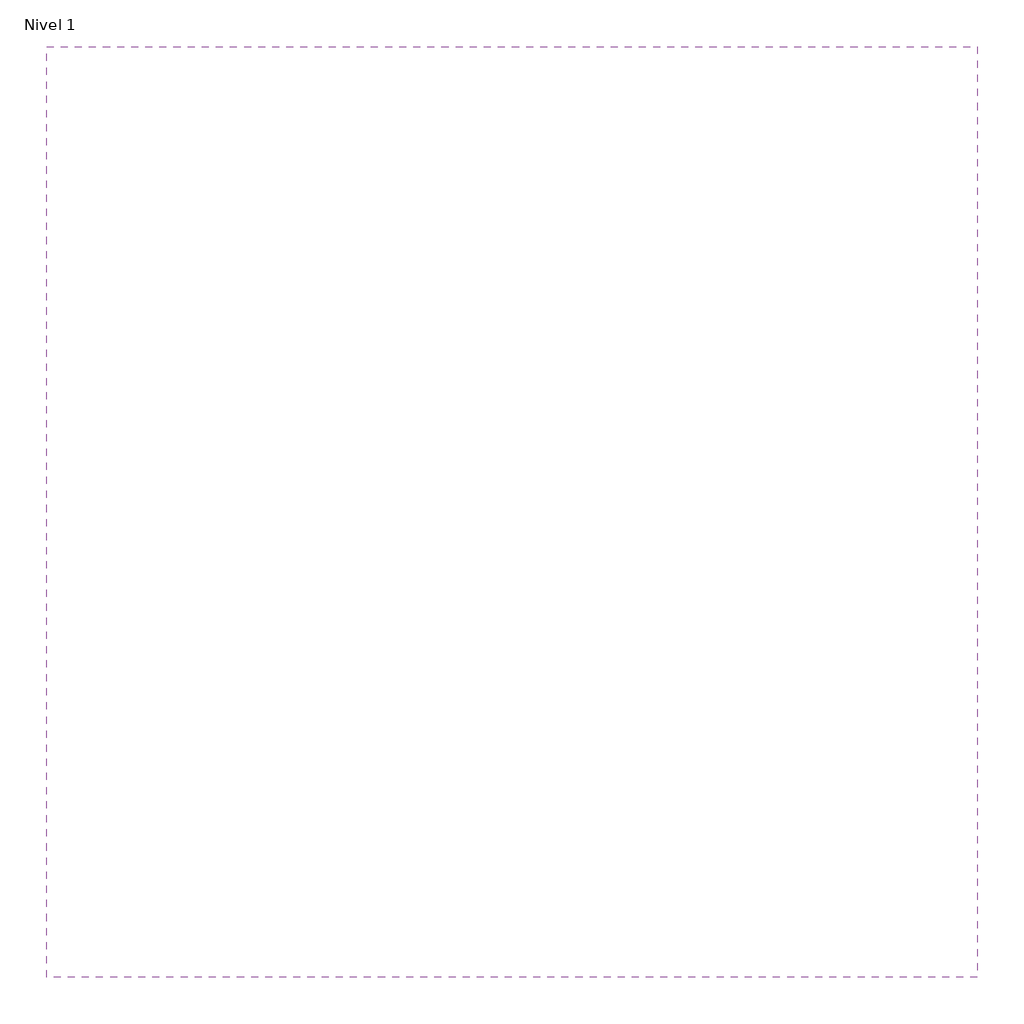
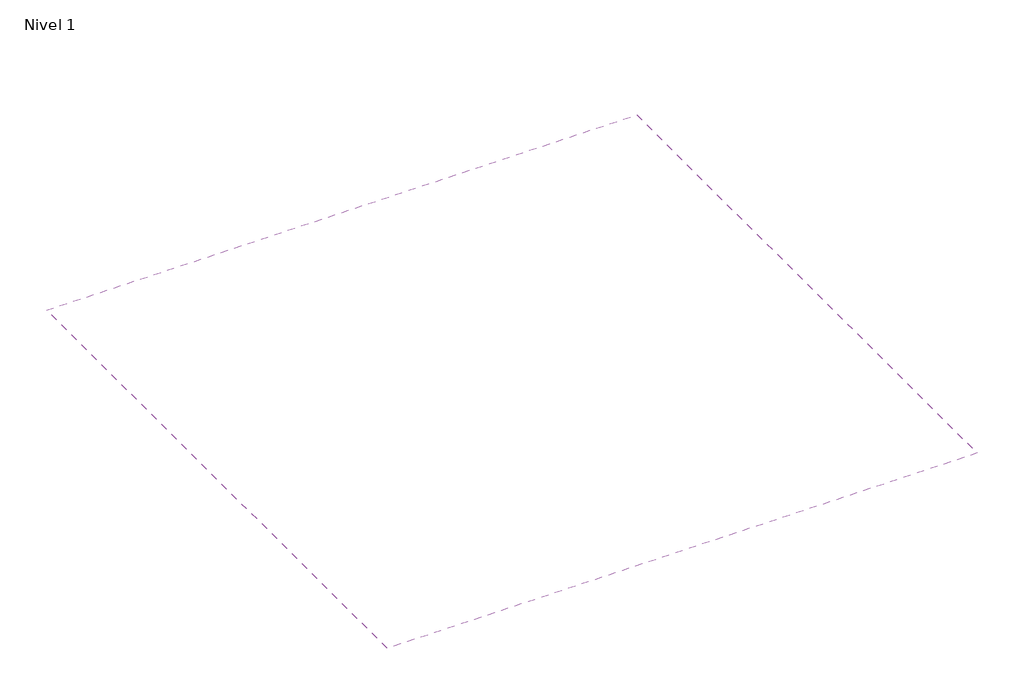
# One storey: 1 covering.
"""IFC4 building model written with IfcOpenShell, lengths in millimetres."""

from ifc_helpers import new_model, si_unit, frame, origin, place, context, project, spatial, polyline, outline, extrude, element, save

model = new_model("IFC4")

# Units and contexts
model_context = context("Model", 3, world=origin())
ifc_project = project(units=[si_unit("LENGTHUNIT", "METRE", prefix="MILLI")], contexts=[model_context])

# Site, building, storey
site = spatial("IfcSite", under=ifc_project)
building = spatial("IfcBuilding", under=site)
storey = spatial("IfcBuildingStorey", under=building, Name="Nivel 1", Elevation=0.0)

# Covering
placement = place(None, origin())
element("IfcCovering", 1, ObjectType="Aisl. poliuretano + Yeso", at=placement, inside=storey, context=model_context, shape_type="SweptSolid", body=[
    extrude(outline(polyline([(-2177.4784364, 3679.8615469), (-3177.4784364, 3679.8615469), (-3177.4784364, 4679.8615469), (-2177.4784364, 4679.8615469), (-2177.4784364, 3679.8615469)])), frame((0.0, 0.0, 2600.0), z_axis=(0.0, 0.0, 1.0), x_axis=(1.0, 0.0, 0.0)), (0.0, 0.0, 1.0), 122.5),
])

save(model, "model.ifc")
